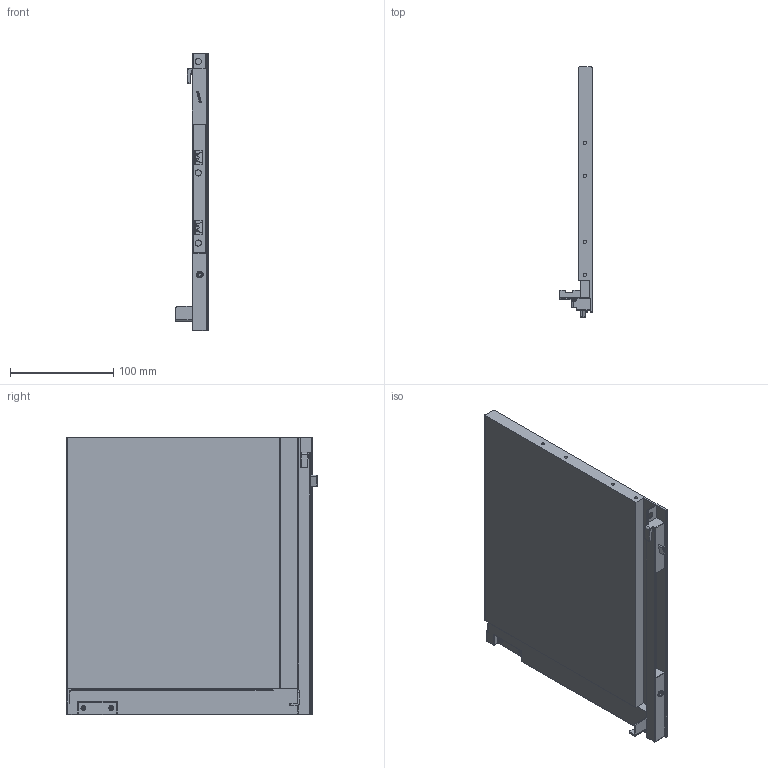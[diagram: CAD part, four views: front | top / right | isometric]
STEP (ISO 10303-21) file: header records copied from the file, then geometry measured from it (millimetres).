
FILE_DESCRIPTION (( 'STEP AP203' ), '1' );
FILE_NAME ('HT142701-R.STEP', '2022-06-28T08:29:36', ( 'Users' ), ( 'Microsoft' ), 'SwSTEP 2.0', 'SolidWorks 2018', '' );
FILE_SCHEMA (( 'CONFIG_CONTROL_DESIGN' ));
Length unit declared in the file: millimetre
Products named in the file (1): HT142701-R
Bounding box: 31.3 x 243 x 269 mm (x, y, z)
Volume: 751747.5 mm3; surface area: 158216.9 mm2
Topology: 1 solids, 8 shells, 373 faces, 936 edges, 581 vertices
Faces by surface type: plane 176, cylinder 133, torus 29, bspline 23, cone 6, sphere 6
Entity records: 11621 total; most frequent: CARTESIAN_POINT 2750, ORIENTED_EDGE 1854, DIRECTION 1808, EDGE_CURVE 927, AXIS2_PLACEMENT_3D 621, VERTEX_POINT 581, VECTOR 566, LINE 566
